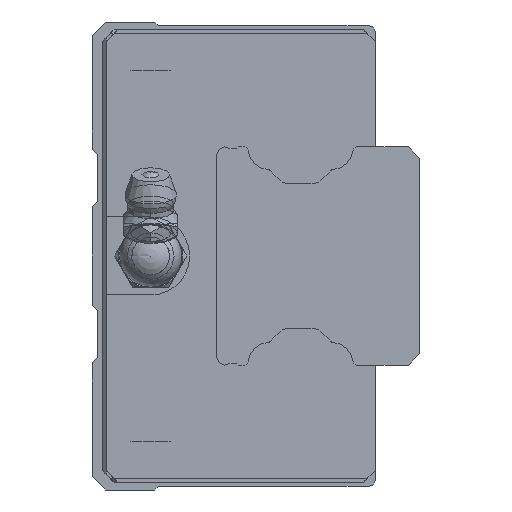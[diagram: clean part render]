
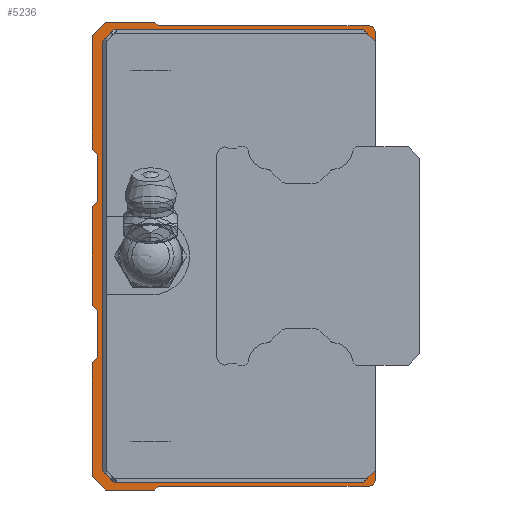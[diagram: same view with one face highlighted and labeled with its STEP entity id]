
A CAD part, left-side view. The second image highlights one B-rep face of the part: STEP entity #5236.
In plain terms, the highlighted planar face has unit normal (-1, 0, 0).
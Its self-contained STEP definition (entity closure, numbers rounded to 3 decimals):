
#111=LINE('',#8164,#473);
#120=LINE('',#8183,#482);
#127=LINE('',#8196,#489);
#153=LINE('',#8252,#515);
#161=LINE('',#8268,#523);
#167=LINE('',#8280,#529);
#192=LINE('',#8331,#554);
#197=LINE('',#8340,#559);
#199=LINE('',#8344,#561);
#224=LINE('',#8430,#586);
#228=LINE('',#8439,#590);
#231=LINE('',#8445,#593);
#235=LINE('',#8457,#597);
#239=LINE('',#8472,#601);
#243=LINE('',#8484,#605);
#246=LINE('',#8490,#608);
#249=LINE('',#8496,#611);
#252=LINE('',#8506,#614);
#255=LINE('',#8512,#617);
#259=LINE('',#8524,#621);
#263=LINE('',#8536,#625);
#266=LINE('',#8546,#628);
#269=LINE('',#8552,#631);
#273=LINE('',#8564,#635);
#277=LINE('',#8576,#639);
#280=LINE('',#8586,#642);
#473=VECTOR('',#6386,1000.);
#482=VECTOR('',#6401,1000.);
#489=VECTOR('',#6412,1000.);
#515=VECTOR('',#6452,1000.);
#523=VECTOR('',#6464,1000.);
#529=VECTOR('',#6476,1000.);
#554=VECTOR('',#6517,1000.);
#559=VECTOR('',#6524,1000.);
#561=VECTOR('',#6528,1000.);
#586=VECTOR('',#6595,1000.);
#590=VECTOR('',#6601,1000.);
#593=VECTOR('',#6606,1000.);
#597=VECTOR('',#6618,1000.);
#601=VECTOR('',#6636,1000.);
#605=VECTOR('',#6648,1000.);
#608=VECTOR('',#6653,1000.);
#611=VECTOR('',#6658,1000.);
#614=VECTOR('',#6667,1000.);
#617=VECTOR('',#6672,1000.);
#621=VECTOR('',#6684,1000.);
#625=VECTOR('',#6696,1000.);
#628=VECTOR('',#6705,1000.);
#631=VECTOR('',#6710,1000.);
#635=VECTOR('',#6722,1000.);
#639=VECTOR('',#6734,1000.);
#642=VECTOR('',#6743,1000.);
#837=PLANE('',#5694);
#1141=CIRCLE('',#5650,0.5);
#1143=CIRCLE('',#5654,0.8);
#1145=CIRCLE('',#5657,0.8);
#1147=CIRCLE('',#5661,0.5);
#1151=CIRCLE('',#5671,0.5);
#1153=CIRCLE('',#5675,0.5);
#1157=CIRCLE('',#5683,0.5);
#1159=CIRCLE('',#5687,0.5);
#1899=ORIENTED_EDGE('',*,*,#2889,.T.);
#1900=ORIENTED_EDGE('',*,*,#2896,.T.);
#1901=ORIENTED_EDGE('',*,*,#2969,.F.);
#1902=ORIENTED_EDGE('',*,*,#3031,.F.);
#1903=ORIENTED_EDGE('',*,*,#3028,.F.);
#1904=ORIENTED_EDGE('',*,*,#3025,.T.);
#1905=ORIENTED_EDGE('',*,*,#3022,.F.);
#1906=ORIENTED_EDGE('',*,*,#3019,.F.);
#1907=ORIENTED_EDGE('',*,*,#3015,.F.);
#1908=ORIENTED_EDGE('',*,*,#3093,.F.);
#1909=ORIENTED_EDGE('',*,*,#3088,.F.);
#1910=ORIENTED_EDGE('',*,*,#3085,.T.);
#1911=ORIENTED_EDGE('',*,*,#3082,.F.);
#1912=ORIENTED_EDGE('',*,*,#3079,.T.);
#1913=ORIENTED_EDGE('',*,*,#3076,.F.);
#1914=ORIENTED_EDGE('',*,*,#3073,.F.);
#1915=ORIENTED_EDGE('',*,*,#3068,.F.);
#1916=ORIENTED_EDGE('',*,*,#3065,.T.);
#1917=ORIENTED_EDGE('',*,*,#3062,.F.);
#1918=ORIENTED_EDGE('',*,*,#3059,.T.);
#1919=ORIENTED_EDGE('',*,*,#3056,.F.);
#1920=ORIENTED_EDGE('',*,*,#3053,.F.);
#1921=ORIENTED_EDGE('',*,*,#3048,.F.);
#1922=ORIENTED_EDGE('',*,*,#3045,.F.);
#1923=ORIENTED_EDGE('',*,*,#3042,.F.);
#1924=ORIENTED_EDGE('',*,*,#3039,.T.);
#1925=ORIENTED_EDGE('',*,*,#3036,.F.);
#1926=ORIENTED_EDGE('',*,*,#3033,.F.);
#1927=ORIENTED_EDGE('',*,*,#2971,.F.);
#1928=ORIENTED_EDGE('',*,*,#2931,.T.);
#1929=ORIENTED_EDGE('',*,*,#2938,.T.);
#1930=ORIENTED_EDGE('',*,*,#2923,.T.);
#1931=ORIENTED_EDGE('',*,*,#2964,.T.);
#1932=ORIENTED_EDGE('',*,*,#2879,.T.);
#2879=EDGE_CURVE('',#3539,#3538,#111,.T.);
#2889=EDGE_CURVE('',#3538,#3545,#120,.T.);
#2896=EDGE_CURVE('',#3545,#3549,#127,.T.);
#2923=EDGE_CURVE('',#3573,#3572,#153,.T.);
#2931=EDGE_CURVE('',#3579,#3578,#161,.T.);
#2938=EDGE_CURVE('',#3578,#3573,#167,.T.);
#2964=EDGE_CURVE('',#3572,#3539,#192,.T.);
#2969=EDGE_CURVE('',#3602,#3549,#197,.T.);
#2971=EDGE_CURVE('',#3579,#3604,#199,.T.);
#3015=EDGE_CURVE('',#3644,#3645,#224,.T.);
#3019=EDGE_CURVE('',#3645,#3648,#228,.T.);
#3022=EDGE_CURVE('',#3648,#3650,#231,.T.);
#3025=EDGE_CURVE('',#3652,#3650,#1141,.T.);
#3028=EDGE_CURVE('',#3652,#3654,#235,.T.);
#3031=EDGE_CURVE('',#3654,#3602,#1143,.T.);
#3033=EDGE_CURVE('',#3604,#3656,#1145,.T.);
#3036=EDGE_CURVE('',#3656,#3658,#239,.T.);
#3039=EDGE_CURVE('',#3660,#3658,#1147,.T.);
#3042=EDGE_CURVE('',#3660,#3662,#243,.T.);
#3045=EDGE_CURVE('',#3662,#3664,#246,.T.);
#3048=EDGE_CURVE('',#3664,#3666,#249,.T.);
#3053=EDGE_CURVE('',#3666,#3670,#252,.T.);
#3056=EDGE_CURVE('',#3670,#3672,#255,.T.);
#3059=EDGE_CURVE('',#3674,#3672,#1151,.T.);
#3062=EDGE_CURVE('',#3674,#3676,#259,.T.);
#3065=EDGE_CURVE('',#3678,#3676,#1153,.T.);
#3068=EDGE_CURVE('',#3678,#3680,#263,.T.);
#3073=EDGE_CURVE('',#3680,#3684,#266,.T.);
#3076=EDGE_CURVE('',#3684,#3686,#269,.T.);
#3079=EDGE_CURVE('',#3688,#3686,#1157,.T.);
#3082=EDGE_CURVE('',#3688,#3690,#273,.T.);
#3085=EDGE_CURVE('',#3692,#3690,#1159,.T.);
#3088=EDGE_CURVE('',#3692,#3694,#277,.T.);
#3093=EDGE_CURVE('',#3694,#3644,#280,.T.);
#3538=VERTEX_POINT('',#8163);
#3539=VERTEX_POINT('',#8165);
#3545=VERTEX_POINT('',#8182);
#3549=VERTEX_POINT('',#8195);
#3572=VERTEX_POINT('',#8251);
#3573=VERTEX_POINT('',#8253);
#3578=VERTEX_POINT('',#8267);
#3579=VERTEX_POINT('',#8269);
#3602=VERTEX_POINT('',#8339);
#3604=VERTEX_POINT('',#8345);
#3644=VERTEX_POINT('',#8431);
#3645=VERTEX_POINT('',#8432);
#3648=VERTEX_POINT('',#8440);
#3650=VERTEX_POINT('',#8446);
#3652=VERTEX_POINT('',#8452);
#3654=VERTEX_POINT('',#8458);
#3656=VERTEX_POINT('',#8467);
#3658=VERTEX_POINT('',#8473);
#3660=VERTEX_POINT('',#8479);
#3662=VERTEX_POINT('',#8485);
#3664=VERTEX_POINT('',#8491);
#3666=VERTEX_POINT('',#8497);
#3670=VERTEX_POINT('',#8507);
#3672=VERTEX_POINT('',#8513);
#3674=VERTEX_POINT('',#8519);
#3676=VERTEX_POINT('',#8525);
#3678=VERTEX_POINT('',#8531);
#3680=VERTEX_POINT('',#8537);
#3684=VERTEX_POINT('',#8547);
#3686=VERTEX_POINT('',#8553);
#3688=VERTEX_POINT('',#8559);
#3690=VERTEX_POINT('',#8565);
#3692=VERTEX_POINT('',#8571);
#3694=VERTEX_POINT('',#8577);
#4094=EDGE_LOOP('',(#1899,#1900,#1901,#1902,#1903,#1904,#1905,#1906,#1907,
#1908,#1909,#1910,#1911,#1912,#1913,#1914,#1915,#1916,#1917,#1918,#1919,
#1920,#1921,#1922,#1923,#1924,#1925,#1926,#1927,#1928,#1929,#1930,#1931,
#1932));
#4659=FACE_BOUND('',#4094,.T.);
#5236=ADVANCED_FACE('',(#4659),#837,.F.);
#5650=AXIS2_PLACEMENT_3D('',#8451,#6611,#6612);
#5654=AXIS2_PLACEMENT_3D('',#8463,#6623,#6624);
#5657=AXIS2_PLACEMENT_3D('',#8466,#6629,#6630);
#5661=AXIS2_PLACEMENT_3D('',#8478,#6641,#6642);
#5671=AXIS2_PLACEMENT_3D('',#8518,#6677,#6678);
#5675=AXIS2_PLACEMENT_3D('',#8530,#6689,#6690);
#5683=AXIS2_PLACEMENT_3D('',#8558,#6715,#6716);
#5687=AXIS2_PLACEMENT_3D('',#8570,#6727,#6728);
#5694=AXIS2_PLACEMENT_3D('',#8589,#6747,#6748);
#6386=DIRECTION('',(0.,-0.707,0.707));
#6401=DIRECTION('',(0.,-1.,0.));
#6412=DIRECTION('',(0.,-0.707,-0.707));
#6452=DIRECTION('',(0.,0.707,0.707));
#6464=DIRECTION('',(0.,0.707,-0.707));
#6476=DIRECTION('',(0.,1.,0.));
#6517=DIRECTION('',(0.,0.,1.));
#6524=DIRECTION('',(0.,0.,-1.));
#6528=DIRECTION('',(0.,0.,-1.));
#6595=DIRECTION('',(0.,-0.707,0.707));
#6601=DIRECTION('',(0.,-1.,0.));
#6606=DIRECTION('',(0.,-0.707,-0.707));
#6611=DIRECTION('',(1.,0.,0.));
#6612=DIRECTION('',(0.,0.,-1.));
#6618=DIRECTION('',(0.,-1.,0.));
#6623=DIRECTION('',(1.,0.,0.));
#6624=DIRECTION('',(0.,0.,-1.));
#6629=DIRECTION('',(1.,0.,0.));
#6630=DIRECTION('',(0.,0.,-1.));
#6636=DIRECTION('',(0.,1.,0.));
#6641=DIRECTION('',(1.,0.,0.));
#6642=DIRECTION('',(0.,0.,-1.));
#6648=DIRECTION('',(0.,0.707,-0.707));
#6653=DIRECTION('',(0.,1.,0.));
#6658=DIRECTION('',(0.,0.707,0.707));
#6667=DIRECTION('',(0.,0.,1.));
#6672=DIRECTION('',(0.,-0.707,0.707));
#6677=DIRECTION('',(1.,0.,0.));
#6678=DIRECTION('',(0.,0.,-1.));
#6684=DIRECTION('',(0.,0.,1.));
#6689=DIRECTION('',(1.,0.,0.));
#6690=DIRECTION('',(0.,0.,-1.));
#6696=DIRECTION('',(0.,0.707,0.707));
#6705=DIRECTION('',(0.,0.,1.));
#6710=DIRECTION('',(0.,-0.707,0.707));
#6715=DIRECTION('',(1.,0.,0.));
#6716=DIRECTION('',(0.,0.,-1.));
#6722=DIRECTION('',(0.,0.,1.));
#6727=DIRECTION('',(1.,0.,0.));
#6728=DIRECTION('',(0.,0.,-1.));
#6734=DIRECTION('',(0.,0.707,0.707));
#6743=DIRECTION('',(0.,0.,1.));
#6747=DIRECTION('',(1.,0.,0.));
#6748=DIRECTION('',(0.,0.,-1.));
#8163=CARTESIAN_POINT('',(-46.25,33.5,29.));
#8164=CARTESIAN_POINT('',(-46.25,35.,27.5));
#8165=CARTESIAN_POINT('',(-46.25,35.,27.5));
#8182=CARTESIAN_POINT('',(-46.25,1.5,29.));
#8183=CARTESIAN_POINT('',(-46.25,33.5,29.));
#8195=CARTESIAN_POINT('',(-46.25,0.,27.5));
#8196=CARTESIAN_POINT('',(-46.25,1.5,29.));
#8251=CARTESIAN_POINT('',(-46.25,35.,-27.5));
#8252=CARTESIAN_POINT('',(-46.25,33.5,-29.));
#8253=CARTESIAN_POINT('',(-46.25,33.5,-29.));
#8267=CARTESIAN_POINT('',(-46.25,1.5,-29.));
#8268=CARTESIAN_POINT('',(-46.25,0.,-27.5));
#8269=CARTESIAN_POINT('',(-46.25,0.,-27.5));
#8280=CARTESIAN_POINT('',(-46.25,1.5,-29.));
#8331=CARTESIAN_POINT('',(-46.25,35.,-27.5));
#8339=CARTESIAN_POINT('',(-46.25,0.,28.7));
#8340=CARTESIAN_POINT('',(-46.25,0.,28.7));
#8344=CARTESIAN_POINT('',(-46.25,0.,28.7));
#8345=CARTESIAN_POINT('',(-46.25,0.,-28.7));
#8430=CARTESIAN_POINT('',(-46.25,36.3,28.3));
#8431=CARTESIAN_POINT('',(-46.25,36.3,28.3));
#8432=CARTESIAN_POINT('',(-46.25,34.6,30.));
#8439=CARTESIAN_POINT('',(-46.25,34.6,30.));
#8440=CARTESIAN_POINT('',(-46.25,28.3,30.));
#8445=CARTESIAN_POINT('',(-46.25,28.3,30.));
#8446=CARTESIAN_POINT('',(-46.25,27.946,29.646));
#8451=CARTESIAN_POINT('',(-46.25,27.593,30.));
#8452=CARTESIAN_POINT('',(-46.25,27.593,29.5));
#8457=CARTESIAN_POINT('',(-46.25,27.593,29.5));
#8458=CARTESIAN_POINT('',(-46.25,0.8,29.5));
#8463=CARTESIAN_POINT('',(-46.25,0.8,28.7));
#8466=CARTESIAN_POINT('',(-46.25,0.8,-28.7));
#8467=CARTESIAN_POINT('',(-46.25,0.8,-29.5));
#8472=CARTESIAN_POINT('',(-46.25,0.8,-29.5));
#8473=CARTESIAN_POINT('',(-46.25,27.593,-29.5));
#8478=CARTESIAN_POINT('',(-46.25,27.593,-30.));
#8479=CARTESIAN_POINT('',(-46.25,27.946,-29.646));
#8484=CARTESIAN_POINT('',(-46.25,27.946,-29.646));
#8485=CARTESIAN_POINT('',(-46.25,28.3,-30.));
#8490=CARTESIAN_POINT('',(-46.25,28.3,-30.));
#8491=CARTESIAN_POINT('',(-46.25,34.6,-30.));
#8496=CARTESIAN_POINT('',(-46.25,34.6,-30.));
#8497=CARTESIAN_POINT('',(-46.25,36.3,-28.3));
#8506=CARTESIAN_POINT('',(-46.25,36.3,-28.3));
#8507=CARTESIAN_POINT('',(-46.25,36.3,-13.7));
#8512=CARTESIAN_POINT('',(-46.25,36.3,-13.7));
#8513=CARTESIAN_POINT('',(-46.25,35.746,-13.146));
#8518=CARTESIAN_POINT('',(-46.25,36.1,-12.793));
#8519=CARTESIAN_POINT('',(-46.25,35.6,-12.793));
#8524=CARTESIAN_POINT('',(-46.25,35.6,-12.793));
#8525=CARTESIAN_POINT('',(-46.25,35.6,-7.207));
#8530=CARTESIAN_POINT('',(-46.25,36.1,-7.207));
#8531=CARTESIAN_POINT('',(-46.25,35.746,-6.854));
#8536=CARTESIAN_POINT('',(-46.25,35.746,-6.854));
#8537=CARTESIAN_POINT('',(-46.25,36.3,-6.3));
#8546=CARTESIAN_POINT('',(-46.25,36.3,-6.3));
#8547=CARTESIAN_POINT('',(-46.25,36.3,6.3));
#8552=CARTESIAN_POINT('',(-46.25,36.3,6.3));
#8553=CARTESIAN_POINT('',(-46.25,35.746,6.854));
#8558=CARTESIAN_POINT('',(-46.25,36.1,7.207));
#8559=CARTESIAN_POINT('',(-46.25,35.6,7.207));
#8564=CARTESIAN_POINT('',(-46.25,35.6,7.207));
#8565=CARTESIAN_POINT('',(-46.25,35.6,12.793));
#8570=CARTESIAN_POINT('',(-46.25,36.1,12.793));
#8571=CARTESIAN_POINT('',(-46.25,35.746,13.146));
#8576=CARTESIAN_POINT('',(-46.25,35.746,13.146));
#8577=CARTESIAN_POINT('',(-46.25,36.3,13.7));
#8586=CARTESIAN_POINT('',(-46.25,36.3,13.7));
#8589=CARTESIAN_POINT('',(-46.25,27.593,30.));
